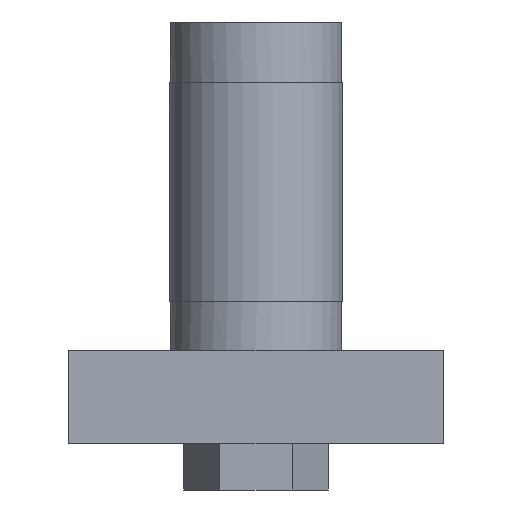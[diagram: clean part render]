
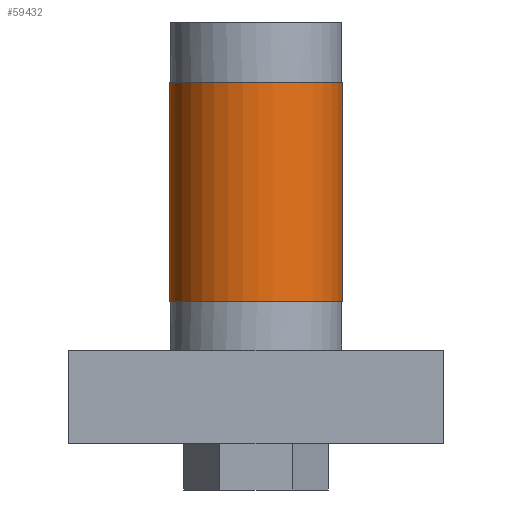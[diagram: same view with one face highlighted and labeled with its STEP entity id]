
A CAD part, front view. The second image highlights one B-rep face of the part: STEP entity #59432.
In plain terms, the highlighted cylindrical face has radius 17.59 mm (diameter 35.179 mm), a full revolution.
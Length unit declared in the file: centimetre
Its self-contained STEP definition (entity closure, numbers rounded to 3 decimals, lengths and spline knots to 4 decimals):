
#5868=FACE_OUTER_BOUND('',#9624,.T.);
#9624=EDGE_LOOP('',(#46384,#46385,#46386,#46387));
#14008=LINE('',#163143,#15577);
#15577=VECTOR('',#74887,1.759);
#20739=CIRCLE('',#64959,1.759);
#20742=CIRCLE('',#64963,1.759);
#24317=VERTEX_POINT('',#163129);
#24320=VERTEX_POINT('',#163136);
#32026=EDGE_CURVE('',#24317,#24317,#20739,.T.);
#32029=EDGE_CURVE('',#24320,#24320,#20742,.T.);
#32032=EDGE_CURVE('',#24320,#24317,#14008,.T.);
#46384=ORIENTED_EDGE('',*,*,#32029,.T.);
#46385=ORIENTED_EDGE('',*,*,#32032,.T.);
#46386=ORIENTED_EDGE('',*,*,#32026,.F.);
#46387=ORIENTED_EDGE('',*,*,#32032,.F.);
#52943=CYLINDRICAL_SURFACE('',#64966,1.759);
#59432=ADVANCED_FACE('',(#5868),#52943,.T.);
#64959=AXIS2_PLACEMENT_3D('',#163130,#74871,#74872);
#64963=AXIS2_PLACEMENT_3D('',#163137,#74879,#74880);
#64966=AXIS2_PLACEMENT_3D('',#163142,#74885,#74886);
#74871=DIRECTION('center_axis',(0.,0.,
-1.));
#74872=DIRECTION('ref_axis',(0.518,-0.855,0.));
#74879=DIRECTION('center_axis',(0.,0.,
-1.));
#74880=DIRECTION('ref_axis',(0.518,-0.855,0.));
#74885=DIRECTION('center_axis',(0.,0.,
1.));
#74886=DIRECTION('ref_axis',(0.518,-0.855,0.));
#74887=DIRECTION('',(0.,0.,-1.));
#163129=CARTESIAN_POINT('',(-0.9117,1.5042,2.8892));
#163130=CARTESIAN_POINT('Origin',(0.,0.,
2.8892));
#163136=CARTESIAN_POINT('',(-0.9117,1.5042,7.3342));
#163137=CARTESIAN_POINT('Origin',(0.,0.,
7.3342));
#163142=CARTESIAN_POINT('Origin',(0.,0.,
2.8892));
#163143=CARTESIAN_POINT('',(-0.9117,1.5042,2.8892));
